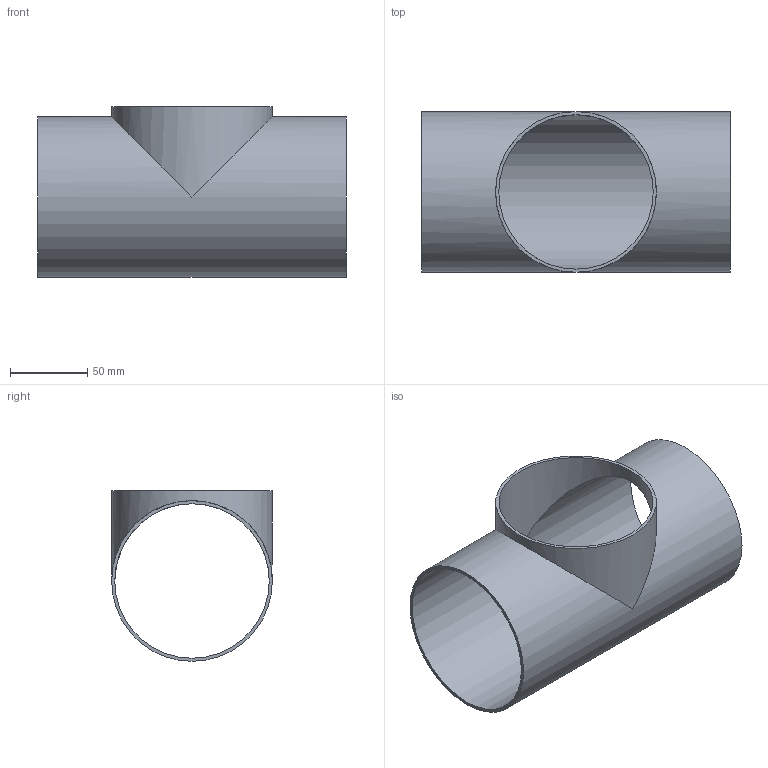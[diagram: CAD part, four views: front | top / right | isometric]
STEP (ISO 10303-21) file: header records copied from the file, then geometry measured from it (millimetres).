
FILE_DESCRIPTION(('FreeCAD Model'),'2;1');
FILE_NAME( '/home/martin/Documents/proyect/accesorios/stp/te_short_DN-100.step', '2018-01-07T08:12:23',('Author'),(''), 'Open CASCADE STEP processor 6.8','FreeCAD','Unknown');
FILE_SCHEMA(('AUTOMOTIVE_DESIGN_CC2 { 1 2 10303 214 -1 1 5 4 }'));
Length unit declared in the file: millimetre
Products named in the file (1): te_short_DN-100
Bounding box: 200 x 104 x 110.5 mm (x, y, z)
Volume: 124047.4 mm3; surface area: 125959.4 mm2
Topology: 1 solids, 1 shells, 7 faces, 16 edges, 12 vertices
Faces by surface type: cylinder 4, plane 3
Full cylindrical faces by diameter (mm): 100 x2, 104 x2
Entity records: 539 total; most frequent: CARTESIAN_POINT 180, DIRECTION 64, ORIENTED_EDGE 32, PCURVE 32, DEFINITIONAL_REPRESENTATION 32, AXIS2_PLACEMENT_3D 20, LINE 18, VECTOR 18
